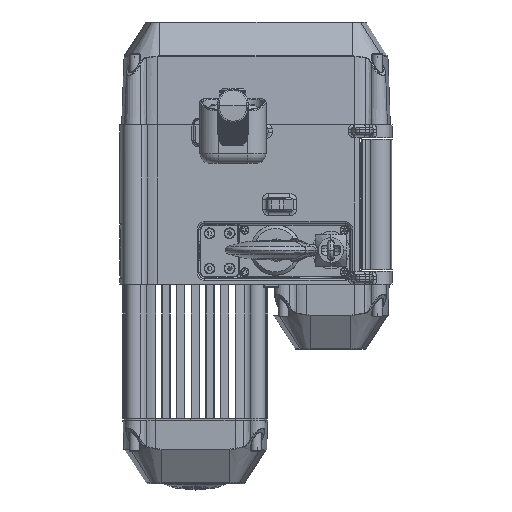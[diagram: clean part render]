
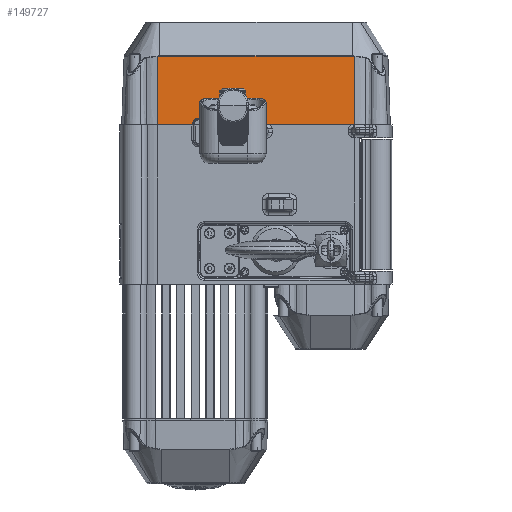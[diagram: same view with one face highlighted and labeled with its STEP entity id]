
A CAD part, front view. The second image highlights one B-rep face of the part: STEP entity #149727.
In plain terms, the highlighted planar face has unit normal (0, -0.999, 0.035).
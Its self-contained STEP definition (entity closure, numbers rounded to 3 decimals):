
#451 = CARTESIAN_POINT ( 'NONE',  ( -45.5, -88., 147.5 ) ) ;
#452 = FACE_OUTER_BOUND ( 'NONE', #110475, .T. ) ;
#482 = PLANE ( 'NONE',  #164317 ) ;
#485 = DIRECTION ( 'NONE',  ( 0., -0.999, 0.035 ) ) ;
#486 = DIRECTION ( 'NONE',  ( 0., -0.035, -0.999 ) ) ;
#6775 = ORIENTED_EDGE ( 'NONE', *, *, #81898, .T. ) ;
#6842 = ORIENTED_EDGE ( 'NONE', *, *, #81576, .T. ) ;
#6971 = ORIENTED_EDGE ( 'NONE', *, *, #82321, .T. ) ;
#6974 = ORIENTED_EDGE ( 'NONE', *, *, #80773, .F. ) ;
#6977 = ORIENTED_EDGE ( 'NONE', *, *, #82505, .T. ) ;
#8691 = ORIENTED_EDGE ( 'NONE', *, *, #82421, .F. ) ;
#8709 = ORIENTED_EDGE ( 'NONE', *, *, #81674, .T. ) ;
#8725 = ORIENTED_EDGE ( 'NONE', *, *, #81676, .T. ) ;
#8883 = ORIENTED_EDGE ( 'NONE', *, *, #82496, .T. ) ;
#9383 = ORIENTED_EDGE ( 'NONE', *, *, #82493, .F. ) ;
#9414 = ORIENTED_EDGE ( 'NONE', *, *, #82468, .T. ) ;
#9451 = ORIENTED_EDGE ( 'NONE', *, *, #81578, .T. ) ;
#10150 = B_SPLINE_CURVE_WITH_KNOTS ( 'NONE', 3,
 ( #33120, #33105, #33117, #33123 ),
 .UNSPECIFIED., .F., .F.,
 ( 4, 4 ),
 ( 0., 0.003 ),
 .UNSPECIFIED. ) ;
#10626 = B_SPLINE_CURVE_WITH_KNOTS ( 'NONE', 3,
 ( #61073, #61115, #61151, #61155 ),
 .UNSPECIFIED., .F., .F.,
 ( 4, 4 ),
 ( 0., 0.003 ),
 .UNSPECIFIED. ) ;
#32572 = CARTESIAN_POINT ( 'NONE',  ( 57., -87.652, 157.465 ) ) ;
#32576 = LINE ( 'NONE', #32578, #94391 ) ;
#32578 = CARTESIAN_POINT ( 'NONE',  ( 57., -87.652, 157.465 ) ) ;
#32579 = DIRECTION ( 'NONE',  ( 1., 0., 0. ) ) ;
#32583 = CARTESIAN_POINT ( 'NONE',  ( 60.515, -87.652, 157.465 ) ) ;
#32585 = CARTESIAN_POINT ( 'NONE',  ( 63., -87.739, 154.98 ) ) ;
#32587 = CARTESIAN_POINT ( 'NONE',  ( 63., -87.862, 151.465 ) ) ;
#33105 = CARTESIAN_POINT ( 'NONE',  ( 189.475, -85.068, 231.465 ) ) ;
#33117 = CARTESIAN_POINT ( 'NONE',  ( 188.446, -85.065, 231.538 ) ) ;
#33120 = CARTESIAN_POINT ( 'NONE',  ( 190.5, -85.073, 231.32 ) ) ;
#33123 = CARTESIAN_POINT ( 'NONE',  ( 187.411, -85.065, 231.538 ) ) ;
#33125 = LINE ( 'NONE', #33129, #94441 ) ;
#33129 = CARTESIAN_POINT ( 'NONE',  ( -42.411, -85.065, 231.538 ) ) ;
#33131 = DIRECTION ( 'NONE',  ( -1., 0., 0. ) ) ;
#56029 = CARTESIAN_POINT ( 'NONE',  ( -45.5, -87.93, 149.5 ) ) ;
#56333 = CARTESIAN_POINT ( 'NONE',  ( -42.411, -85.065, 231.538 ) ) ;
#56344 = CARTESIAN_POINT ( 'NONE',  ( 187.411, -85.065, 231.538 ) ) ;
#56369 = CARTESIAN_POINT ( 'NONE',  ( -3., -87.93, 149.5 ) ) ;
#56377 = CARTESIAN_POINT ( 'NONE',  ( 57., -87.652, 157.465 ) ) ;
#56420 = CARTESIAN_POINT ( 'NONE',  ( -3., -87.862, 151.465 ) ) ;
#56423 = CARTESIAN_POINT ( 'NONE',  ( 3., -87.652, 157.465 ) ) ;
#56488 = CARTESIAN_POINT ( 'NONE',  ( 63., -87.862, 151.465 ) ) ;
#60749 = LINE ( 'NONE', #60753, #88793 ) ;
#60753 = CARTESIAN_POINT ( 'NONE',  ( 190.5, -88., 147.5 ) ) ;
#60756 = DIRECTION ( 'NONE',  ( 0., -0.035, -0.999 ) ) ;
#60959 = LINE ( 'NONE', #60967, #88820 ) ;
#60967 = CARTESIAN_POINT ( 'NONE',  ( 63., -87.93, 149.5 ) ) ;
#60976 = DIRECTION ( 'NONE',  ( 0., -0.035, -0.999 ) ) ;
#61073 = CARTESIAN_POINT ( 'NONE',  ( -42.411, -85.065, 231.538 ) ) ;
#61098 = CARTESIAN_POINT ( 'NONE',  ( -45.5, -87.93, 149.5 ) ) ;
#61115 = CARTESIAN_POINT ( 'NONE',  ( -43.446, -85.065, 231.538 ) ) ;
#61119 = LINE ( 'NONE', #61098, #88829 ) ;
#61137 = DIRECTION ( 'NONE',  ( -1., 0., 0. ) ) ;
#61151 = CARTESIAN_POINT ( 'NONE',  ( -44.475, -85.068, 231.465 ) ) ;
#61155 = CARTESIAN_POINT ( 'NONE',  ( -45.5, -85.073, 231.32 ) ) ;
#61182 = CARTESIAN_POINT ( 'NONE',  ( -3., -87.86, 151.5 ) ) ;
#61254 = LINE ( 'NONE', #61182, #88834 ) ;
#61276 = DIRECTION ( 'NONE',  ( 0., 0.035, 0.999 ) ) ;
#64395 = LINE ( 'NONE', #64407, #88766 ) ;
#64407 = CARTESIAN_POINT ( 'NONE',  ( -45.5, -88., 147.5 ) ) ;
#64409 = DIRECTION ( 'NONE',  ( 0., -0.035, -0.999 ) ) ;
#67453 = CARTESIAN_POINT ( 'NONE',  ( -3., -87.739, 154.98 ) ) ;
#67454 = CARTESIAN_POINT ( 'NONE',  ( -3., -87.862, 151.465 ) ) ;
#67464 = CARTESIAN_POINT ( 'NONE',  ( -0.515, -87.652, 157.465 ) ) ;
#67465 = CARTESIAN_POINT ( 'NONE',  ( 3., -87.652, 157.465 ) ) ;
#80773 = EDGE_CURVE ( 'NONE', #106803, #106604, #97035, .T. ) ;
#81576 = EDGE_CURVE ( 'NONE', #106847, #106801, #32576, .T. ) ;
#81578 = EDGE_CURVE ( 'NONE', #106801, #106927, #134208, .T. ) ;
#81674 = EDGE_CURVE ( 'NONE', #106490, #106787, #10150, .T. ) ;
#81676 = EDGE_CURVE ( 'NONE', #106787, #106775, #33125, .T. ) ;
#81898 = EDGE_CURVE ( 'NONE', #106861, #106847, #133525, .T. ) ;
#82321 = EDGE_CURVE ( 'NONE', #106196, #106604, #64395, .T. ) ;
#82421 = EDGE_CURVE ( 'NONE', #106490, #106501, #60749, .T. ) ;
#82468 = EDGE_CURVE ( 'NONE', #106927, #106489, #60959, .T. ) ;
#82493 = EDGE_CURVE ( 'NONE', #106501, #106489, #61119, .T. ) ;
#82496 = EDGE_CURVE ( 'NONE', #106775, #106196, #10626, .T. ) ;
#82505 = EDGE_CURVE ( 'NONE', #106803, #106861, #61254, .T. ) ;
#87473 = VECTOR ( 'NONE', #97068, 1000. ) ;
#88766 = VECTOR ( 'NONE', #64409, 1000. ) ;
#88793 = VECTOR ( 'NONE', #60756, 1000. ) ;
#88820 = VECTOR ( 'NONE', #60976, 1000. ) ;
#88829 = VECTOR ( 'NONE', #61137, 1000. ) ;
#88834 = VECTOR ( 'NONE', #61276, 1000. ) ;
#94391 = VECTOR ( 'NONE', #32579, 1000. ) ;
#94441 = VECTOR ( 'NONE', #33131, 1000. ) ;
#97035 = LINE ( 'NONE', #97064, #87473 ) ;
#97064 = CARTESIAN_POINT ( 'NONE',  ( -45.5, -87.93, 149.5 ) ) ;
#97068 = DIRECTION ( 'NONE',  ( -1., 0., 0. ) ) ;
#106196 = VERTEX_POINT ( 'NONE', #173358 ) ;
#106489 = VERTEX_POINT ( 'NONE', #173474 ) ;
#106490 = VERTEX_POINT ( 'NONE', #173477 ) ;
#106501 = VERTEX_POINT ( 'NONE', #173471 ) ;
#106604 = VERTEX_POINT ( 'NONE', #56029 ) ;
#106775 = VERTEX_POINT ( 'NONE', #56333 ) ;
#106787 = VERTEX_POINT ( 'NONE', #56344 ) ;
#106801 = VERTEX_POINT ( 'NONE', #56377 ) ;
#106803 = VERTEX_POINT ( 'NONE', #56369 ) ;
#106847 = VERTEX_POINT ( 'NONE', #56423 ) ;
#106861 = VERTEX_POINT ( 'NONE', #56420 ) ;
#106927 = VERTEX_POINT ( 'NONE', #56488 ) ;
#110475 = EDGE_LOOP ( 'NONE', ( #9451, #9414, #9383, #8691, #8709, #8725, #8883, #6971, #6974, #6977, #6775, #6842 ) ) ;
#133525 =( BOUNDED_CURVE ( )  B_SPLINE_CURVE ( 3, ( #67454, #67453, #67464, #67465 ),
 .UNSPECIFIED., .F., .T. ) 
 B_SPLINE_CURVE_WITH_KNOTS ( ( 4, 4 ),
 ( 4.712, 6.283 ),
 .UNSPECIFIED. ) 
 CURVE ( )  GEOMETRIC_REPRESENTATION_ITEM ( )  RATIONAL_B_SPLINE_CURVE ( ( 1., 0.805, 0.805, 1. ) ) 
 REPRESENTATION_ITEM ( '' )  );
#134208 =( BOUNDED_CURVE ( )  B_SPLINE_CURVE ( 3, ( #32572, #32583, #32585, #32587 ),
 .UNSPECIFIED., .F., .F. ) 
 B_SPLINE_CURVE_WITH_KNOTS ( ( 4, 4 ),
 ( 0., 1.571 ),
 .UNSPECIFIED. ) 
 CURVE ( )  GEOMETRIC_REPRESENTATION_ITEM ( )  RATIONAL_B_SPLINE_CURVE ( ( 1., 0.805, 0.805, 1. ) ) 
 REPRESENTATION_ITEM ( '' )  );
#149727 = ADVANCED_FACE ( 'NONE', ( #452 ), #482, .T. ) ;
#164317 = AXIS2_PLACEMENT_3D ( 'NONE', #451, #485, #486 ) ;
#173358 = CARTESIAN_POINT ( 'NONE',  ( -45.5, -85.073, 231.32 ) ) ;
#173471 = CARTESIAN_POINT ( 'NONE',  ( 190.5, -87.93, 149.5 ) ) ;
#173474 = CARTESIAN_POINT ( 'NONE',  ( 63., -87.93, 149.5 ) ) ;
#173477 = CARTESIAN_POINT ( 'NONE',  ( 190.5, -85.073, 231.32 ) ) ;
